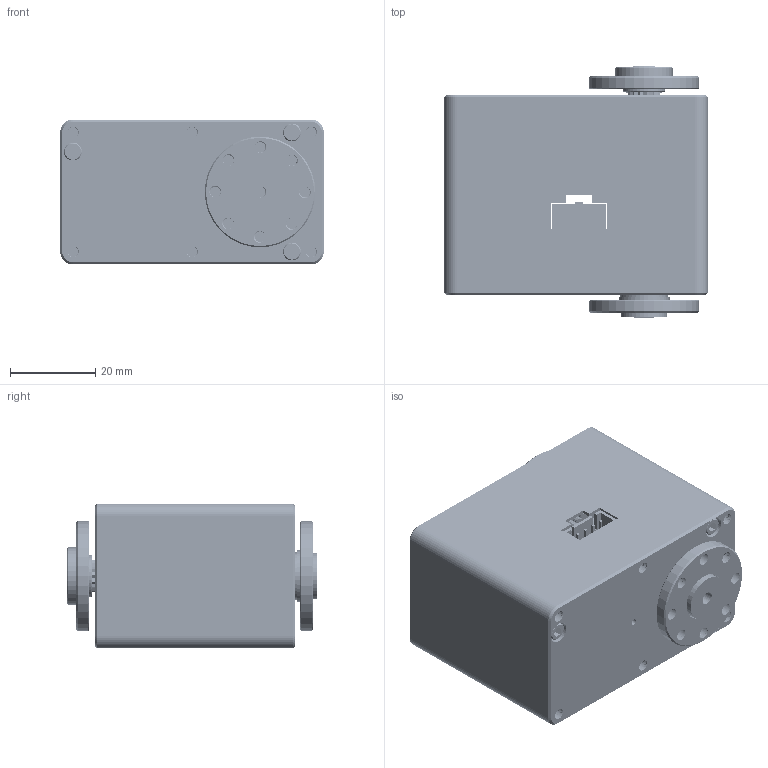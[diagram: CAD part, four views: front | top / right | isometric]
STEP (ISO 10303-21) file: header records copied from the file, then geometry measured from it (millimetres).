
FILE_DESCRIPTION(/* description */ ('','CAx-IF Rec.Pracs.---Representation and Presentation of Product Manufacturing Information (PMI)---4.0---2014-10-13'),/* implementation_level */ '2;1');
FILE_NAME(/* name */ 'RSBL85.step',/* time_stamp */ '2025-03-10T09:17:18+08:00',/* author */ (''),/* organization */ (''),/* preprocessor_version */ 'ST-DEVELOPER v20',/* originating_system */ 'Autodesk Translation Framework v13.20.0.188',/* authorisation */ '');
FILE_SCHEMA (('AP242_MANAGED_MODEL_BASED_3D_ENGINEERING_MIM_LF { 1 0 10303 442 1 1 4 }'));
Products named in the file (18): sm8512bl-20220225; SM8512BL-20201203_ASM_ASM; SM8512BL-20201203_ASM_ASM_ASM; SM85BL-20201203_ASM_ASM_ASM_ASM; SM85BL_ASM_8_ASM_ASM_ASM_ASM; WJ-WK00-0070-MIDDLECASE-0820_10; WJ-WK00-0069-TOBCABINET-0820_6; OUTPUTGEAR_1; WJ-WK00-0071-BOTTOM-0721_1; MF106ZZ_1; WJ-DP00-0011_1; WJ-FDP0-0005-DANPAN-20181204_1; SM85BL-PCB_ASM_1_ASM_ASM_ASM_ASM; TOPPCBSM85BL_1; TJC25020-4P_1; M25-12SCREW_1; M25-18SCREW_1; WJ-DP00-0010-3-20211027
Assembly tree (26 placements, depth 7):
  sm8512bl-20220225
    SM8512BL-20201203_ASM_ASM
      SM8512BL-20201203_ASM_ASM_ASM
        SM85BL-20201203_ASM_ASM_ASM_ASM
          SM85BL_ASM_8_ASM_ASM_ASM_ASM
            WJ-WK00-0070-MIDDLECASE-0820_10
            WJ-WK00-0069-TOBCABINET-0820_6
            TOPPCBSM85BL_1
            OUTPUTGEAR_1
            M25-12SCREW_1  x5
            WJ-WK00-0071-BOTTOM-0721_1
            MF106ZZ_1
            WJ-DP00-0011_1
            WJ-FDP0-0005-DANPAN-20181204_1
            M25-18SCREW_1  x4
            SM85BL-PCB_ASM_1_ASM_ASM_ASM_ASM
              TJC25020-4P_1  x2
              TOPPCBSM85BL_1
    WJ-DP00-0010-3-20211027
Bounding box: 62 x 59 x 34 mm (x, y, z)
Volume: 28688 mm3; surface area: 41965.7 mm2
Topology: 21 solids, 21 shells, 2419 faces, 6601 edges, 4292 vertices
Faces by surface type: cylinder 1296, bspline 602, plane 461, cone 54, torus 6
Full cylindrical faces by diameter (mm): 1 x16, 1.5 x1, 2.1 x6, 2.5 x832, 3.05 x1, 3.1 x1, 4 x1, 4.2 x9, 4.8 x5, 5 x4, 6 x2, 8 x6, 9 x1, 10 x4, 11 x1, 11.2 x1, 11.5 x2, 12 x1, 13.5 x1, 14 x1, 15 x1, 16.5 x2, 18 x1, 26 x2
Entity records: 291602 total; most frequent: CARTESIAN_POINT 253056, ORIENTED_EDGE 8980, DIRECTION 6283, EDGE_CURVE 4490, VERTEX_POINT 2923, AXIS2_PLACEMENT_3D 2211, LINE 1861, VECTOR 1861
